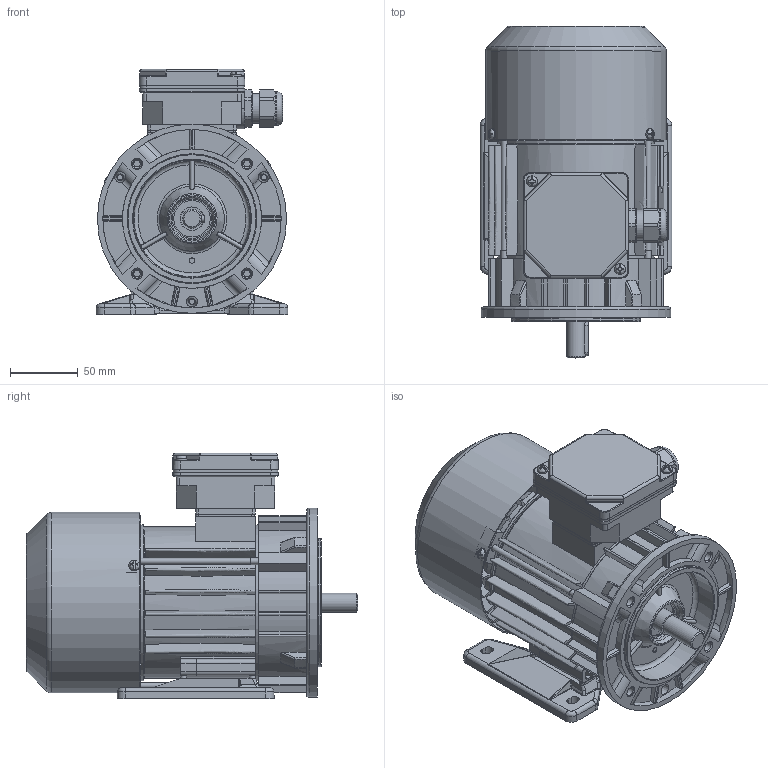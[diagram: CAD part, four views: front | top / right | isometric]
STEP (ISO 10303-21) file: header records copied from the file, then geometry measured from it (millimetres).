
FILE_DESCRIPTION( ( 'Unknown' ), '1' );
FILE_NAME( 'G:/Poczta Tk-1/STP/w.m.71/Sh71/SLh71-.B1.stp', 'Unknown', ( 'K. Szlosek' ), ( 'BESEL S.A.' ), 'PSStep 17.0.49', 'Unknown', ' ' );
FILE_SCHEMA( ( 'AUTOMOTIVE_DESIGN { 1 0 10303 214 1 1 1 1 }' ) );
Length unit declared in the file: millimetre
Products named in the file (29): Assem1; K4-2820 Uszczelka nr 2 Sh71,80; Wkręt samogwintujący M4x16; K3-6469 Tarcza łożyskowa P S(E,M)h71-B,C; Wpust A5x5x25; Wkręt samogwintujący M4x8; K1-1194 Kadłub z zamkami Sh71-.B; K3-3984 Przewietrznik Sh71; K4-2320 Uszczelka nr 1 Sh71,80; K3-2975 Osłona przewietrznika Sh71-.B,C; K2-0860 Pokrywka skrzynki zaciskowej; K3-4502 wał standard Sh71-B; Nitokołek A 2x6; Łożysko 6203; Śruba ściągająca E_M5x110; Tabliczka znamionowa 32x44; Dławnica M20x1,5; K1-1246 Tarcza kołnierzowa B14_1 w.m. 71; K2-0859 Podstawa skrzynki 6-cio zaciskowej; K1-0448 Łapa Sh71-.. 
Assembly tree (44 placements, depth 2):
  Assem1
    K4-2820 Uszczelka nr 2 Sh71,80
    Wkręt samogwintujący M4x16  x2
    K3-6469 Tarcza łożyskowa P S(E,M)h71-B,C
    Wpust A5x5x25
    Wkręt samogwintujący M4x8  x3
    K1-1194 Kadłub z zamkami Sh71-.B
    K3-3984 Przewietrznik Sh71
    K4-2320 Uszczelka nr 1 Sh71,80
    K3-2975 Osłona przewietrznika Sh71-.B,C
    K2-0860 Pokrywka skrzynki zaciskowej
    K3-4502 wał standard Sh71-B
    Nitokołek A 2x6  x2
    Łożysko 6203  x2
    Łożysko 6203  x2
    Łożysko 6203  x2
    Łożysko 6203  x2
    Łożysko 6203  x2
    Łożysko 6203  x2
    Łożysko 6203  x2
    Łożysko 6203  x2
    Łożysko 6203  x2
    Łożysko 6203  x2
    Śruba ściągająca E_M5x110  x3
    Tabliczka znamionowa 32x44
    Dławnica M20x1,5
    K1-1246 Tarcza kołnierzowa B14_1 w.m. 71
    K2-0859 Podstawa skrzynki 6-cio zaciskowej
    K1-0448 Łapa Sh71-.. 
Bounding box: 141.93 x 245.5 x 181.5 mm (x, y, z)
Volume: 747179 mm3; surface area: 471194.6 mm2
Topology: 44 solids, 60 shells, 2699 faces, 7336 edges, 4699 vertices
Faces by surface type: plane 1094, cylinder 782, bspline 391, torus 203, cone 179, sphere 50
Full cylindrical faces by diameter (mm): 2 x2, 2.4 x2, 3.7 x7, 3.8 x4, 4 x6, 4.134 x3, 4.5 x1, 4.6 x3, 4.8 x4, 5 x7, 5.5 x3, 5.8 x4, 6.8 x4, 7 x1, 8 x9, 14 x1, 15.9 x1, 16.1 x1, 16.5 x1, 17 x4, 17.4 x2, 18.376 x1, 18.38 x1, 20 x1, 22 x2, 22.3 x1, 22.5 x1, 23 x1, 23.1 x1, 24.498 x4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
Entity records: 156763 total; most frequent: CARTESIAN_POINT 75545, ORIENTED_EDGE 13150, DIRECTION 11729, EDGE_CURVE 6575, AXIS2_PLACEMENT_3D 4472, VERTEX_POINT 4366, EDGE_LOOP 2968, LINE 2785
